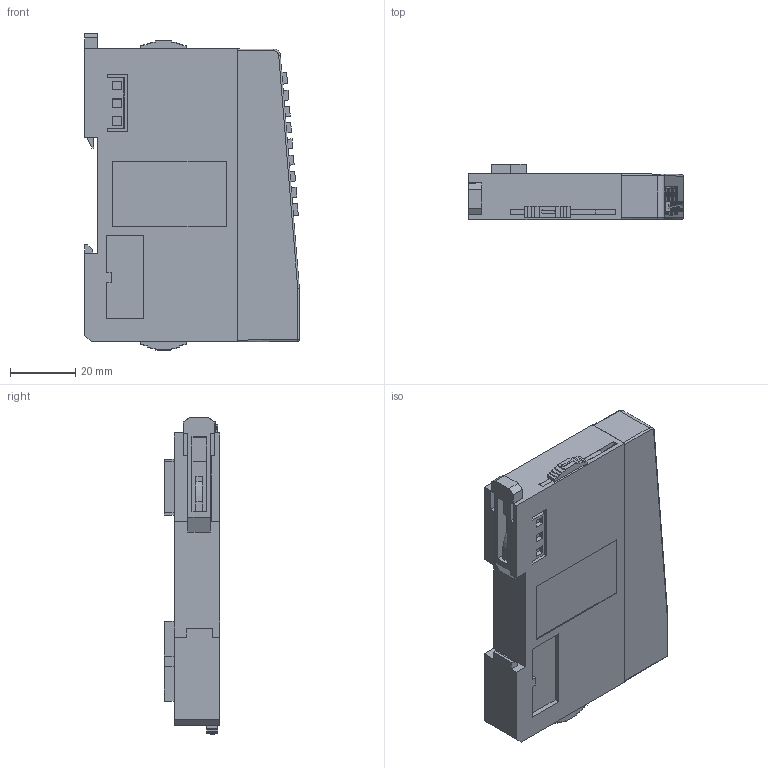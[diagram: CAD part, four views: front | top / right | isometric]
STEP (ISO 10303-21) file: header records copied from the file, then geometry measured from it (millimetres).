
FILE_DESCRIPTION(/* description */ (''),/* implementation_level */ '2;1');
FILE_NAME(/* name */ 'EX-8点模块.stp',/* time_stamp */ '2022-01-13T19:41:33+08:00',/* author */ (''),/* organization */ (''),/* preprocessor_version */ 'ST-DEVELOPER v16',/* originating_system */ 'SIEMENS PLM Software NX 10.0',/* authorisation */ '');
FILE_SCHEMA (('AP203_CONFIGURATION_CONTROLLED_3D_DESIGN_OF_MECHANICAL_PARTS_AND_ASSEMBLIES_MIM_LF { 1 0 10303 403 2 1 2}'));
Length unit declared in the file: millimetre
Products named in the file (1): 73494C981A9Cmmgt
Bounding box: 66 x 17 x 97.45 mm (x, y, z)
Volume: 78352.4 mm3; surface area: 24792.7 mm2
Topology: 6 solids, 6 shells, 620 faces, 1636 edges, 1082 vertices
Faces by surface type: plane 551, cone 37, cylinder 26, sphere 4, torus 2
Full cylindrical faces by diameter (mm): 1.2 x8
Entity records: 18882 total; most frequent: CARTESIAN_POINT 3361, ORIENTED_EDGE 3252, DIRECTION 2980, EDGE_CURVE 1626, LINE 1494, VECTOR 1494, VERTEX_POINT 1082, AXIS2_PLACEMENT_3D 743
